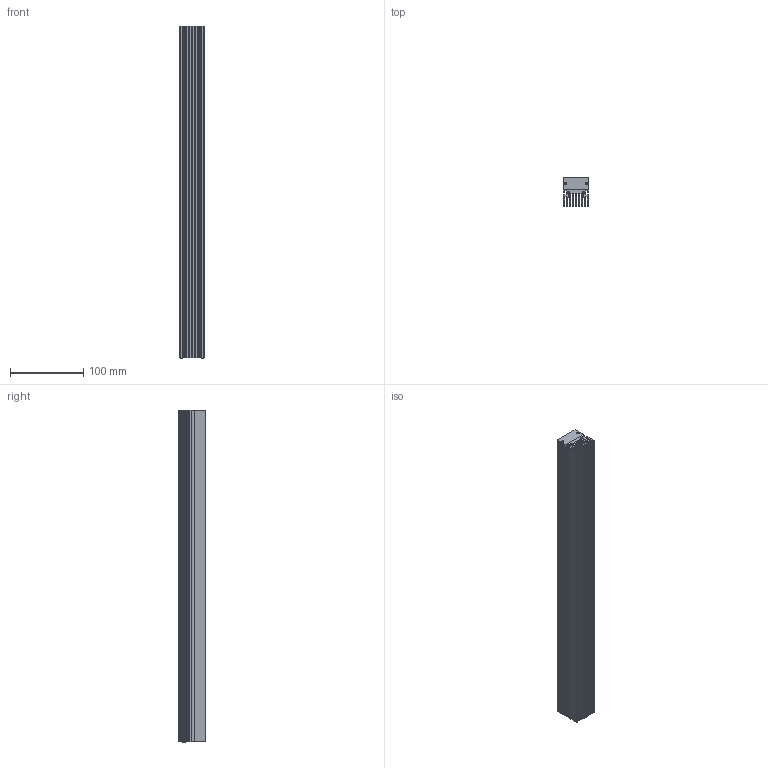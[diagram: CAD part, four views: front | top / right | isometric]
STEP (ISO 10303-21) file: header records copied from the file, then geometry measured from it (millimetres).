
FILE_DESCRIPTION((''),'2;1');
FILE_NAME('HSL','2020-03-25T',('ASUS'),(''),'PRO/ENGINEER BY PARAMETRIC TECHNOLOGY CORPORATION, 2008380','PRO/ENGINEER BY PARAMETRIC TECHNOLOGY CORPORATION, 2008380','');
FILE_SCHEMA(('CONFIG_CONTROL_DESIGN'));
Length unit declared in the file: millimetre
Products named in the file (1): HSL
Bounding box: 35 x 38 x 454 mm (x, y, z)
Volume: 420981 mm3; surface area: 217920 mm2
Topology: 1 solids, 1 shells, 171 faces, 454 edges, 300 vertices
Faces by surface type: plane 145, cylinder 18, cone 8
Entity records: 5274 total; most frequent: CARTESIAN_POINT 931, ORIENTED_EDGE 908, DIRECTION 836, EDGE_CURVE 454, VECTOR 410, LINE 410, VERTEX_POINT 300, AXIS2_PLACEMENT_3D 213
